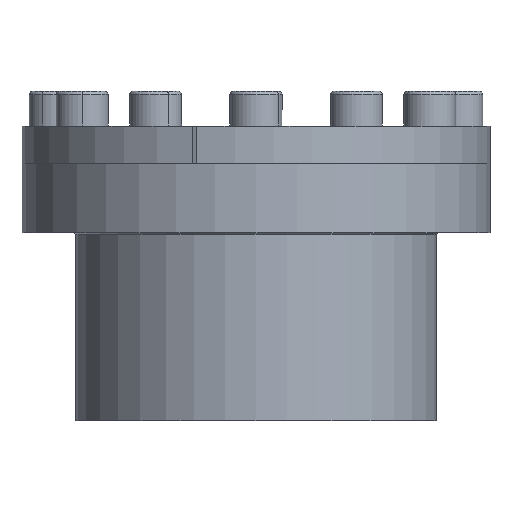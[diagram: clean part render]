
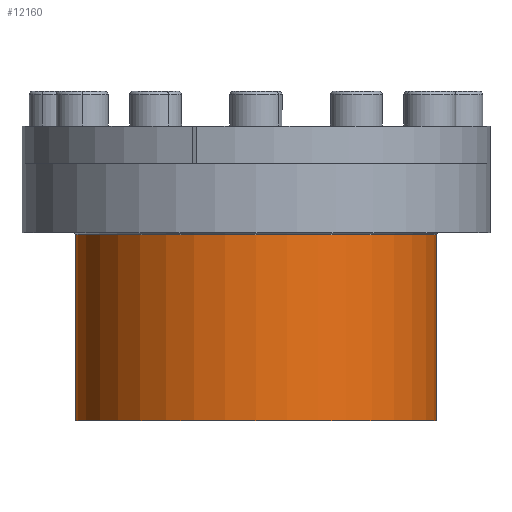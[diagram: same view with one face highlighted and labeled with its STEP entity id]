
A CAD part, front view. The second image highlights one B-rep face of the part: STEP entity #12160.
In plain terms, the highlighted cylindrical face has radius 62.5 mm (diameter 125 mm), a partial arc.
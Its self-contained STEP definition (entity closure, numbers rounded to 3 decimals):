
#534 = DIRECTION ( 'NONE',  ( -1., 0., 0. ) ) ;
#827 = DIRECTION ( 'NONE',  ( 0., 0., -1. ) ) ;
#3543 = CYLINDRICAL_SURFACE ( 'NONE', #6220, 62.5 ) ;
#3685 = VERTEX_POINT ( 'NONE', #4615 ) ;
#3692 = CARTESIAN_POINT ( 'NONE',  ( 0., 0., -81. ) ) ;
#4363 = EDGE_CURVE ( 'NONE', #3685, #13539, #17286, .T. ) ;
#4550 = CARTESIAN_POINT ( 'NONE',  ( -62.5, 0., -81. ) ) ;
#4615 = CARTESIAN_POINT ( 'NONE',  ( 62.5, 0., -16.6 ) ) ;
#4683 = ORIENTED_EDGE ( 'NONE', *, *, #11787, .F. ) ;
#4708 = ORIENTED_EDGE ( 'NONE', *, *, #11428, .T. ) ;
#5112 = DIRECTION ( 'NONE',  ( -1., 0., 0. ) ) ;
#5775 = EDGE_CURVE ( 'NONE', #3685, #13142, #11096, .T. ) ;
#6220 = AXIS2_PLACEMENT_3D ( 'NONE', #12894, #7225, #534 ) ;
#6700 = VERTEX_POINT ( 'NONE', #4550 ) ;
#6709 = DIRECTION ( 'NONE',  ( 0., 0., -1. ) ) ;
#7225 = DIRECTION ( 'NONE',  ( 0., 0., -1. ) ) ;
#7730 = CIRCLE ( 'NONE', #11998, 62.5 ) ;
#8628 = FACE_OUTER_BOUND ( 'NONE', #15471, .T. ) ;
#8888 = VECTOR ( 'NONE', #16649, 1000. ) ;
#8916 = ORIENTED_EDGE ( 'NONE', *, *, #5775, .T. ) ;
#10736 = CARTESIAN_POINT ( 'NONE',  ( -62.5, 0., -16.6 ) ) ;
#11096 = CIRCLE ( 'NONE', #13454, 62.5 ) ;
#11282 = LINE ( 'NONE', #13863, #8888 ) ;
#11428 = EDGE_CURVE ( 'NONE', #13142, #6700, #11282, .T. ) ;
#11553 = CARTESIAN_POINT ( 'NONE',  ( 62.5, 0., -81. ) ) ;
#11787 = EDGE_CURVE ( 'NONE', #13539, #6700, #7730, .T. ) ;
#11998 = AXIS2_PLACEMENT_3D ( 'NONE', #3692, #13528, #5112 ) ;
#12160 = ADVANCED_FACE ( 'NONE', ( #8628 ), #3543, .T. ) ;
#12894 = CARTESIAN_POINT ( 'NONE',  ( 0., 0., -16. ) ) ;
#13142 = VERTEX_POINT ( 'NONE', #10736 ) ;
#13200 = ORIENTED_EDGE ( 'NONE', *, *, #4363, .F. ) ;
#13454 = AXIS2_PLACEMENT_3D ( 'NONE', #15154, #6709, #16574 ) ;
#13525 = VECTOR ( 'NONE', #827, 1000. ) ;
#13528 = DIRECTION ( 'NONE',  ( 0., 0., -1. ) ) ;
#13539 = VERTEX_POINT ( 'NONE', #11553 ) ;
#13863 = CARTESIAN_POINT ( 'NONE',  ( -62.5, 0., -16. ) ) ;
#15154 = CARTESIAN_POINT ( 'NONE',  ( 0., 0., -16.6 ) ) ;
#15471 = EDGE_LOOP ( 'NONE', ( #13200, #8916, #4708, #4683 ) ) ;
#16574 = DIRECTION ( 'NONE',  ( -1., 0., 0. ) ) ;
#16649 = DIRECTION ( 'NONE',  ( 0., 0., -1. ) ) ;
#17286 = LINE ( 'NONE', #17718, #13525 ) ;
#17718 = CARTESIAN_POINT ( 'NONE',  ( 62.5, 0., -16. ) ) ;
